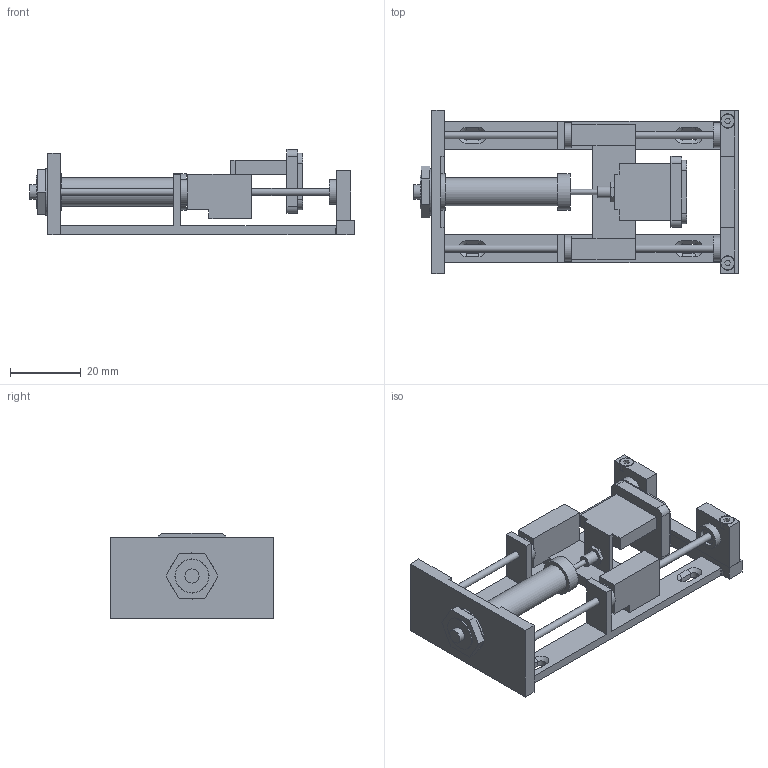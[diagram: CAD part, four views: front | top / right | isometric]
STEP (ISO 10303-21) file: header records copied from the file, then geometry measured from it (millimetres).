
FILE_DESCRIPTION(('Open CASCADE Model'),'2;1');
FILE_NAME('Open CASCADE Shape Model','2026-09-09T10:24:08',('Author'),( 'Open CASCADE'),'Open CASCADE STEP processor 7.8','Open CASCADE 7.8' ,'Unknown');
FILE_SCHEMA(('AUTOMOTIVE_DESIGN { 1 0 10303 214 1 1 1 1 }'));
Length unit declared in the file: millimetre
Products named in the file (28): LightBender_Airpot_22mm_V1; P01_Base_rear_flange; P02_Front_bridge; P03_Carriage_contact_head; P04_Contact_pad; B01_Shaft_L; B02_igus_GSM020303_L1; B02_igus_GSM020303_L2; P05_Bumper_L_rear; P05_Bumper_L_front; B01_Shaft_R; B02_igus_GSM020303_R1; B02_igus_GSM020303_R2; P05_Bumper_R_rear; P05_Bumper_R_front; B03_Airpot_glass_envelope; B04_Airpot_head_thread_envelope; B05_Airpot_front_cap; B06_Airpot_adjuster_envelope; B07_Airpot_mount_washer; B08_Airpot_mount_nut; B09_Airpot_piston_NF_rod; B10_NF_lockwasher; B11_NF_2_64_nut; B12_M2x16_L; B13_M2_nut_L; B12_M2x16_R; B13_M2_nut_R
Assembly tree (27 placements, depth 2):
  LightBender_Airpot_22mm_V1
    P01_Base_rear_flange
    P02_Front_bridge
    P03_Carriage_contact_head
    P04_Contact_pad
    B01_Shaft_L
    B02_igus_GSM020303_L1
    B02_igus_GSM020303_L2
    P05_Bumper_L_rear
    P05_Bumper_L_front
    B01_Shaft_R
    B02_igus_GSM020303_R1
    B02_igus_GSM020303_R2
    P05_Bumper_R_rear
    P05_Bumper_R_front
    B03_Airpot_glass_envelope
    B04_Airpot_head_thread_envelope
    B05_Airpot_front_cap
    B06_Airpot_adjuster_envelope
    B07_Airpot_mount_washer
    B08_Airpot_mount_nut
    B09_Airpot_piston_NF_rod
    B10_NF_lockwasher
    B11_NF_2_64_nut
    B12_M2x16_L
    B13_M2_nut_L
    B12_M2x16_R
    B13_M2_nut_R
Bounding box: 91.56 x 46 x 24 mm (x, y, z)
Volume: 17541.7 mm3; surface area: 19315.9 mm2
Topology: 27 solids, 28 shells, 321 faces, 701 edges, 462 vertices
Faces by surface type: plane 224, cylinder 89, cone 8
Full cylindrical faces by diameter (mm): 1 x1, 1.473 x1, 2 x5, 2.034 x4, 2.04 x4, 2.1 x2, 2.184 x1, 2.2 x4, 2.22 x2, 2.3 x2, 2.4 x6, 2.5 x1, 3.2 x1, 3.5 x8, 3.8 x2, 4 x1, 4.572 x1, 4.6 x5, 4.9 x4, 5.4 x1, 5.588 x1, 7 x4, 7.899 x1, 9.525 x1, 9.6 x2, 10 x1, 10.16 x2, 13 x1
Entity records: 18592 total; most frequent: CARTESIAN_POINT 3430, DIRECTION 2716, LINE 1517, VECTOR 1517, ORIENTED_EDGE 1402, PCURVE 1402, DEFINITIONAL_REPRESENTATION 1402, EDGE_CURVE 701
